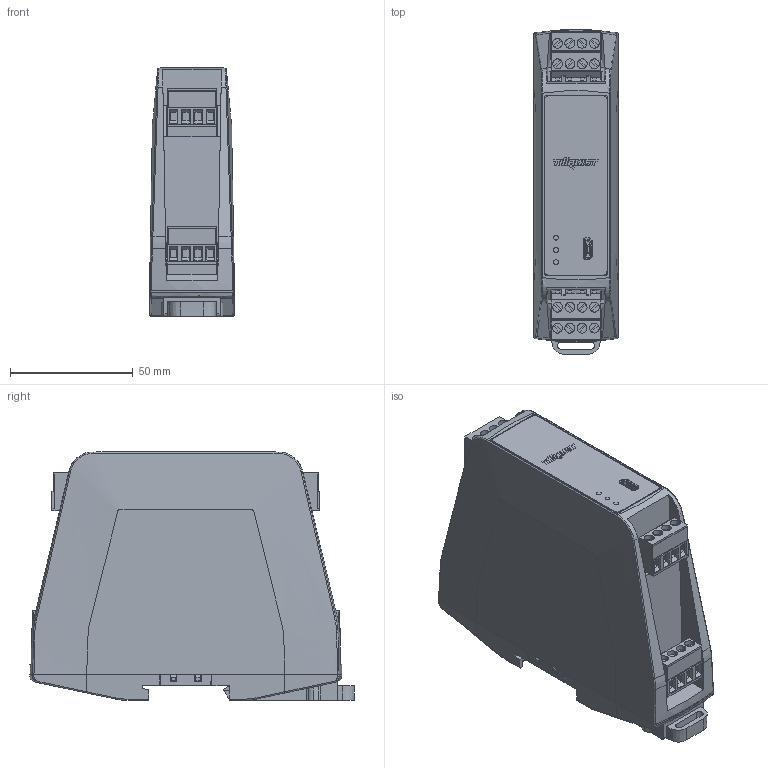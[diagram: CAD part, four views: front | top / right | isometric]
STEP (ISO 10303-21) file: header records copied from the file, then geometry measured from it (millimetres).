
FILE_DESCRIPTION (( 'STEP AP214' ), '1' );
FILE_NAME ('Kapsling_DCR_color_new.STEP', '2024-01-16T14:00:53', ( '' ), ( '' ), 'SwSTEP 2.0', 'SolidWorks 2023', '' );
FILE_SCHEMA (( 'AUTOMOTIVE_DESIGN' ));
Length unit declared in the file: millimetre
Products named in the file (13): Etikett1_DCFront.STEP; LTDC_AFE_R1B-2024-01-16_supressed.STEP; LTDC_MAIN_R1B-2024-01-16_supressed.STEP; 09.03.0009.STEP; 09.03.0007.STEP; 01.02.0021.STEP; 01.02.0020.STEP; 09.03.0006.STEP; 09.03.0008.STEP; Kapsling_DCR.STEP; Kapsling_DCR_color_new; STP39A0180050.STEP; 01.02.0009_DCforview.STEP
Assembly tree (13 placements, depth 3):
  Kapsling_DCR_color_new
    Kapsling_DCR.STEP
      01.02.0020.STEP
      01.02.0021.STEP
      STP39A0180050.STEP  x2
      Etikett1_DCFront.STEP
      LTDC_AFE_R1B-2024-01-16_supressed.STEP
      LTDC_MAIN_R1B-2024-01-16_supressed.STEP
      09.03.0006.STEP
      09.03.0007.STEP
      09.03.0008.STEP
      09.03.0009.STEP
      01.02.0009_DCforview.STEP
Bounding box: 34.63 x 132.32 x 101.4 mm (x, y, z)
Volume: 87919.2 mm3; surface area: 102735.4 mm2
Topology: 19 solids, 29 shells, 2947 faces, 9367 edges, 6414 vertices
Faces by surface type: plane 1993, bspline 441, cylinder 331, cone 174, torus 8
Entity records: 149229 total; most frequent: CARTESIAN_POINT 69601, ORIENTED_EDGE 16644, DIRECTION 9362, EDGE_CURVE 9175, VERTEX_POINT 6301, B_SPLINE_CURVE_WITH_KNOTS 5336, AXIS2_PLACEMENT_3D 3136, EDGE_LOOP 3098
